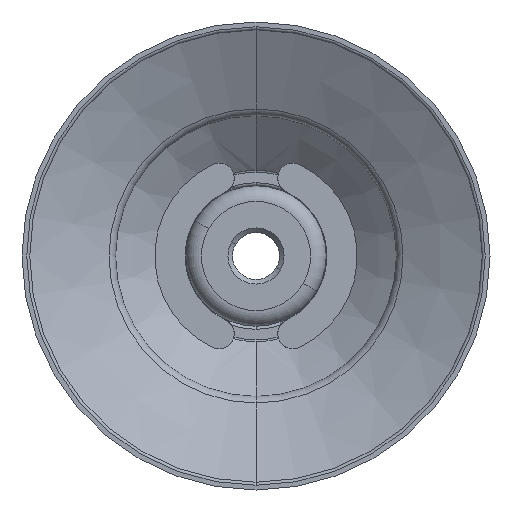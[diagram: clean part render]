
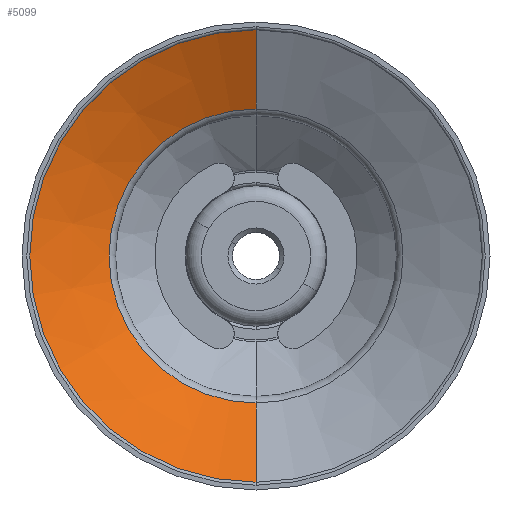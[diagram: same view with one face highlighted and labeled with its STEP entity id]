
A CAD part, front view. The second image highlights one B-rep face of the part: STEP entity #5099.
In plain terms, the highlighted conical face has half-angle 62.841 degrees and reference radius 14.487 mm.
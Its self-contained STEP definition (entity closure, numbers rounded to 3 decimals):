
#82 = CIRCLE ( 'NONE', #2777, 14.487 ) ;
#631 = DIRECTION ( 'NONE',  ( 0., 1., 0. ) ) ;
#706 = EDGE_CURVE ( 'NONE', #5851, #2064, #5621, .T. ) ;
#863 = ORIENTED_EDGE ( 'NONE', *, *, #706, .T. ) ;
#884 = ORIENTED_EDGE ( 'NONE', *, *, #6797, .F. ) ;
#896 = CARTESIAN_POINT ( 'NONE',  ( 0., -22.621, 0. ) ) ;
#1123 = DIRECTION ( 'NONE',  ( 0., 0., 1. ) ) ;
#1386 = DIRECTION ( 'NONE',  ( 0., -1., 0. ) ) ;
#1527 = AXIS2_PLACEMENT_3D ( 'NONE', #2907, #631, #5595 ) ;
#1994 = VERTEX_POINT ( 'NONE', #2280 ) ;
#2033 = DIRECTION ( 'NONE',  ( 0., -0.456, -0.89 ) ) ;
#2064 = VERTEX_POINT ( 'NONE', #2792 ) ;
#2280 = CARTESIAN_POINT ( 'NONE',  ( 0., -22.621, -14.487 ) ) ;
#2702 = EDGE_LOOP ( 'NONE', ( #863, #4909, #884, #3082 ) ) ;
#2777 = AXIS2_PLACEMENT_3D ( 'NONE', #6537, #4374, #1123 ) ;
#2792 = CARTESIAN_POINT ( 'NONE',  ( 0., -20.018, 9.414 ) ) ;
#2891 = EDGE_CURVE ( 'NONE', #5851, #1994, #6159, .T. ) ;
#2907 = CARTESIAN_POINT ( 'NONE',  ( 0., -20.018, 0. ) ) ;
#3082 = ORIENTED_EDGE ( 'NONE', *, *, #2891, .F. ) ;
#3431 = LINE ( 'NONE', #5319, #4450 ) ;
#3778 = CARTESIAN_POINT ( 'NONE',  ( 0., -20.018, -9.414 ) ) ;
#3830 = CARTESIAN_POINT ( 'NONE',  ( 0., -22.621, 14.487 ) ) ;
#3869 = FACE_OUTER_BOUND ( 'NONE', #2702, .T. ) ;
#4092 = DIRECTION ( 'NONE',  ( 0., 0., -1. ) ) ;
#4306 = VECTOR ( 'NONE', #2033, 1000. ) ;
#4374 = DIRECTION ( 'NONE',  ( 0., 1., 0. ) ) ;
#4450 = VECTOR ( 'NONE', #4749, 1000. ) ;
#4467 = EDGE_CURVE ( 'NONE', #2064, #6420, #3431, .T. ) ;
#4749 = DIRECTION ( 'NONE',  ( 0., -0.456, 0.89 ) ) ;
#4909 = ORIENTED_EDGE ( 'NONE', *, *, #4467, .T. ) ;
#5099 = ADVANCED_FACE ( 'NONE', ( #3869 ), #5478, .F. ) ;
#5319 = CARTESIAN_POINT ( 'NONE',  ( 0., -22.621, 14.487 ) ) ;
#5478 = CONICAL_SURFACE ( 'NONE', #6750, 14.487, 1.097 ) ;
#5595 = DIRECTION ( 'NONE',  ( 0., 0., 1. ) ) ;
#5621 = CIRCLE ( 'NONE', #1527, 9.414 ) ;
#5851 = VERTEX_POINT ( 'NONE', #3778 ) ;
#5882 = CARTESIAN_POINT ( 'NONE',  ( 0., -22.621, -14.487 ) ) ;
#6159 = LINE ( 'NONE', #5882, #4306 ) ;
#6420 = VERTEX_POINT ( 'NONE', #3830 ) ;
#6537 = CARTESIAN_POINT ( 'NONE',  ( 0., -22.621, 0. ) ) ;
#6750 = AXIS2_PLACEMENT_3D ( 'NONE', #896, #1386, #4092 ) ;
#6797 = EDGE_CURVE ( 'NONE', #1994, #6420, #82, .T. ) ;
